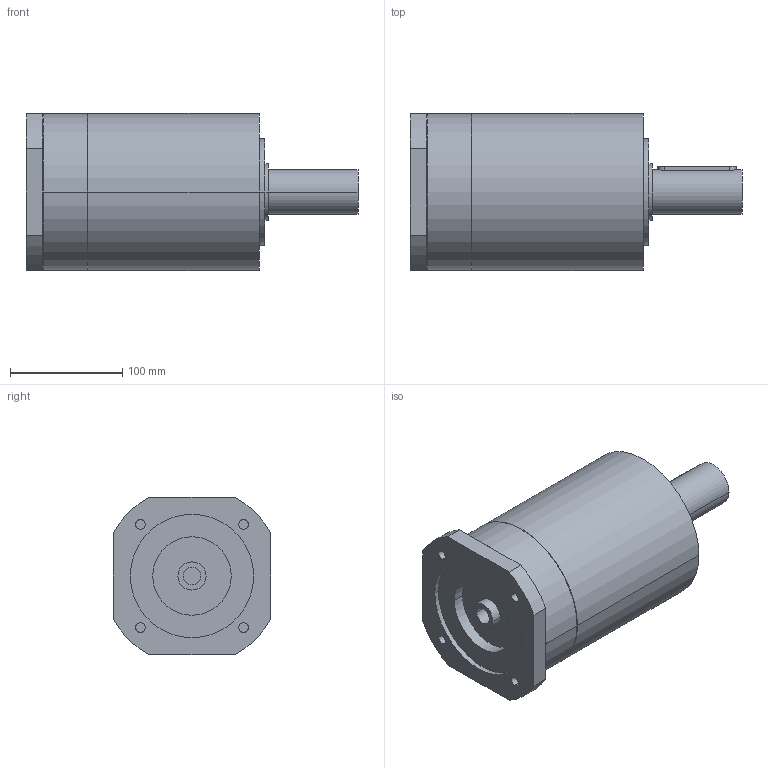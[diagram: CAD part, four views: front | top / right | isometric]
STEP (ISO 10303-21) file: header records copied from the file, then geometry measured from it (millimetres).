
FILE_DESCRIPTION(('CoCreate Modeling STEP Export'),'2;1');
FILE_NAME('GPR150_ig-9-12-16-20-28-35_40_B14_15.87_P04.stp','2014-08-19T17:02:45',(''),(''),'CoCreate Modeling STEP processor for AP214 (Solid Model)','CoCreate Modeling 16.00C 25-Feb-2009 (C) Parametric Technology GmbH','');
FILE_SCHEMA(('AUTOMOTIVE_DESIGN { 1 0 10303 214 1 1 1 1 }'));
Length unit declared in the file: millimetre
Products named in the file (2): GPR150_ig-9-12-16-20-28-35_40_B14_15.87_P04
Assembly tree (1 placements, depth 2):
  GPR150_ig-9-12-16-20-28-35_40_B14_15.87_P04
    GPR150_ig-9-12-16-20-28-35_40_B14_15.87_P04
Bounding box: 296 x 140 x 140 mm (x, y, z)
Volume: 3278527.8 mm3; surface area: 155506.1 mm2
Topology: 1 solids, 1 shells, 86 faces, 232 edges, 160 vertices
Faces by surface type: cylinder 50, plane 30, cone 6
Entity records: 2346 total; most frequent: ORIENTED_EDGE 460, CARTESIAN_POINT 443, DIRECTION 316, EDGE_CURVE 230, VERTEX_POINT 160, AXIS2_PLACEMENT_3D 121, EDGE_LOOP 108, FACE_OUTER_BOUND 86
